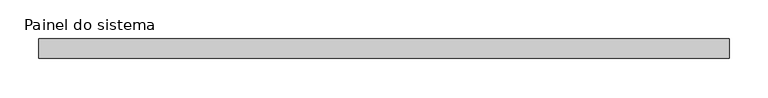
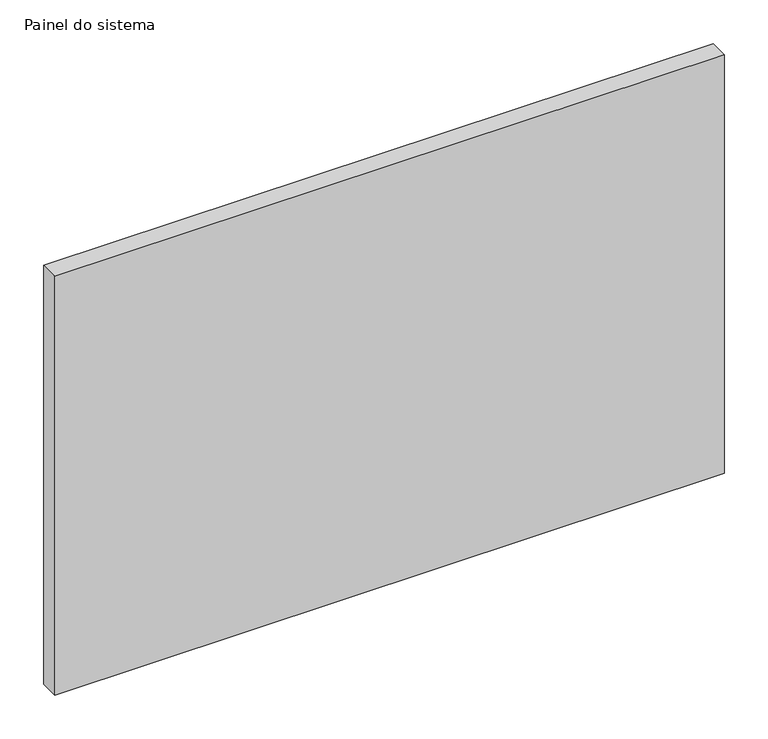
"""IFC4 building model written with IfcOpenShell, lengths in millimetres: plate geometry, Painel do sistema : Envidraçado."""

from ifc_helpers import new_model, si_unit, origin, origin_with_axes, place, context, project, spatial, polyline, outline, extrude, source, transform, mapped, element, save


def painel_do_sistema_efdc3f81(model_context):
    return source(origin(), model_context, "Body", "SweptSolid", [
        extrude(outline(polyline([(442.5, 24.5), (-442.5, 24.5), (-442.5, 49.5), (442.5, 49.5), (442.5, 24.5)])), origin_with_axes(), (0.0, 0.0, 1.0), 585.0),
    ])


if __name__ == "__main__":
    model = new_model("IFC4")
    model_context = context("Model", 3, world=origin())
    ifc_project = project(units=[si_unit("LENGTHUNIT", "METRE", prefix="MILLI")], contexts=[model_context])
    site = spatial("IfcSite", under=ifc_project)
    building = spatial("IfcBuilding", under=site)
    placement = place(None, origin())
    painel_do_sistema_shape = painel_do_sistema_efdc3f81(model_context)
    element("IfcPlate", 1, ObjectType="Painel do sistema : Envidraçado", at=placement, inside=building, context=model_context, shape_type="MappedRepresentation", body=[
        mapped(painel_do_sistema_shape, transform((0.0, 0.0, 0.0), x_axis=(1.0, 0.0, 0.0), y_axis=(0.0, 1.0, 0.0), z_axis=(0.0, 0.0, 1.0))),
    ])
    save(model, "model.ifc")
